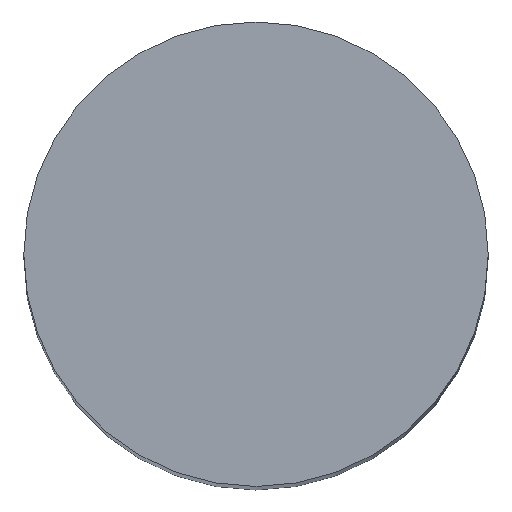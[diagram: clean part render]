
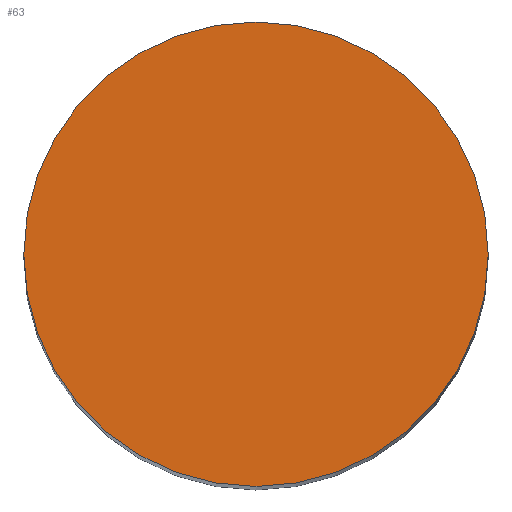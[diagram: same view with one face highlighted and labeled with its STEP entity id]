
A CAD part, top view. The second image highlights one B-rep face of the part: STEP entity #63.
In plain terms, the highlighted planar face has unit normal (0, 0, 1).
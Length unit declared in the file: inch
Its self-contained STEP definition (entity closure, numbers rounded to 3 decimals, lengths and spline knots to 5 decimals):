
#9 = DIRECTION ( 'NONE',  ( 0., 0., 1. ) ) ;
#10 = CARTESIAN_POINT ( 'NONE',  ( 0., 0., 1.09 ) ) ;
#17 = DIRECTION ( 'NONE',  ( 0., 0., 1. ) ) ;
#19 = DIRECTION ( 'NONE',  ( 1., 0., 0. ) ) ;
#24 = DIRECTION ( 'NONE',  ( 1., 0., 0. ) ) ;
#25 = CARTESIAN_POINT ( 'NONE',  ( 0., 0., 1.09 ) ) ;
#26 = CARTESIAN_POINT ( 'NONE',  ( 0.125, 0., 1.09 ) ) ;
#51 = PLANE ( 'NONE',  #142 ) ;
#53 = DIRECTION ( 'NONE',  ( 0., 0., 1. ) ) ;
#55 = CARTESIAN_POINT ( 'NONE',  ( 0., 0., 1.09 ) ) ;
#59 = CARTESIAN_POINT ( 'NONE',  ( -0.125, 0., 1.09 ) ) ;
#61 = DIRECTION ( 'NONE',  ( 1., 0., 0. ) ) ;
#63 = ADVANCED_FACE ( 'NONE', ( #110 ), #51, .T. ) ;
#71 = EDGE_LOOP ( 'NONE', ( #81, #76 ) ) ;
#76 = ORIENTED_EDGE ( 'NONE', *, *, #136, .T. ) ;
#81 = ORIENTED_EDGE ( 'NONE', *, *, #139, .T. ) ;
#87 = VERTEX_POINT ( 'NONE', #59 ) ;
#90 = CIRCLE ( 'NONE', #118, 0.125 ) ;
#104 = VERTEX_POINT ( 'NONE', #26 ) ;
#106 = CIRCLE ( 'NONE', #119, 0.125 ) ;
#110 = FACE_OUTER_BOUND ( 'NONE', #71, .T. ) ;
#118 = AXIS2_PLACEMENT_3D ( 'NONE', #25, #9, #24 ) ;
#119 = AXIS2_PLACEMENT_3D ( 'NONE', #10, #17, #19 ) ;
#136 = EDGE_CURVE ( 'NONE', #104, #87, #90, .T. ) ;
#139 = EDGE_CURVE ( 'NONE', #87, #104, #106, .T. ) ;
#142 = AXIS2_PLACEMENT_3D ( 'NONE', #55, #53, #61 ) ;
